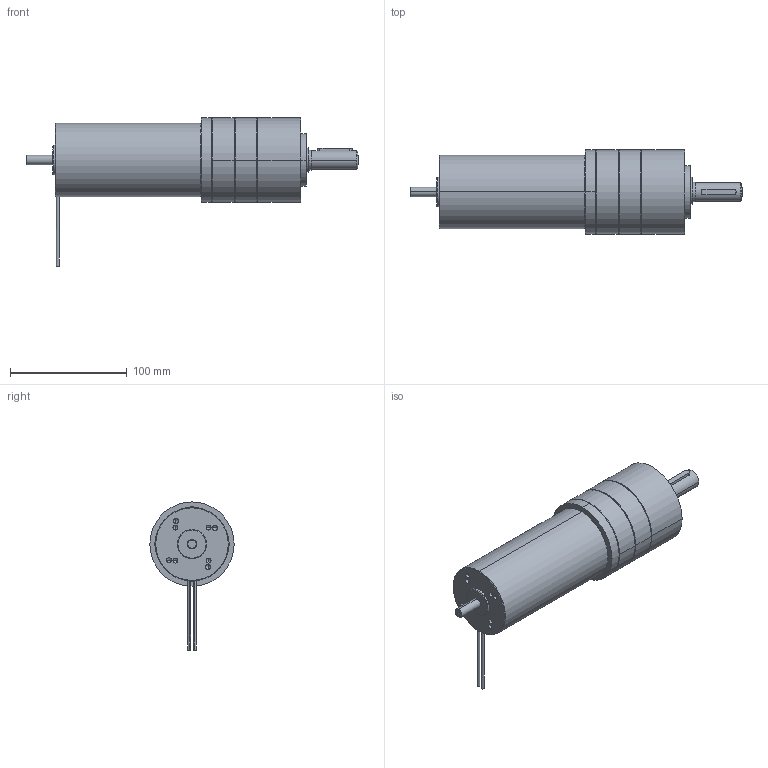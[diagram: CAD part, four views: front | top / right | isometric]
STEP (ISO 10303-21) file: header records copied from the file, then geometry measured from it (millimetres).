
FILE_DESCRIPTION (( 'STEP AP214' ), '1' );
FILE_NAME ('1-17-063-4xx_PM72_2st.STEP', '2020-11-23T09:25:51', ( '' ), ( '' ), 'SwSTEP 2.0', 'SolidWorks 2019', '' );
FILE_SCHEMA (( 'AUTOMOTIVE_DESIGN' ));
Length unit declared in the file: millimetre
Products named in the file (4): 1-17-063-4xx_PM72_2st; PM72-2etages; Motor bulher 1.17.063.402 ; 7200738_Part
Assembly tree (3 placements, depth 2):
  1-17-063-4xx_PM72_2st
    Motor bulher 1.17.063.402 
    7200738_Part
    PM72-2etages
Bounding box: 283.8 x 72 x 126.55 mm (x, y, z)
Volume: 432736.3 mm3; surface area: 157855.9 mm2
Topology: 2 solids, 38 shells, 1045 faces, 2689 edges, 1718 vertices
Faces by surface type: cylinder 511, plane 349, cone 127, torus 58
Entity records: 35193 total; most frequent: CARTESIAN_POINT 7321, DIRECTION 5922, ORIENTED_EDGE 5258, EDGE_CURVE 2647, AXIS2_PLACEMENT_3D 2267, VERTEX_POINT 1718, LINE 1388, VECTOR 1388
